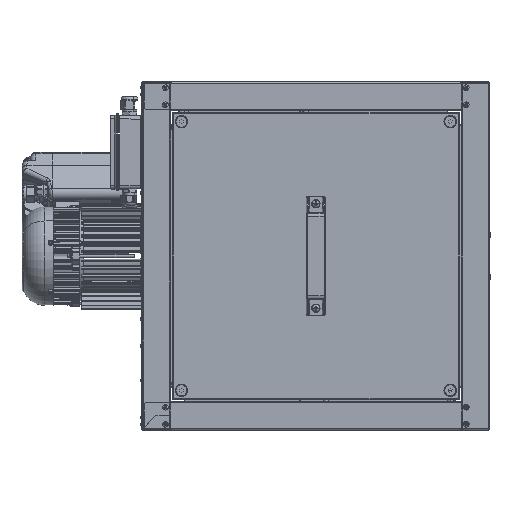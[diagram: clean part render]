
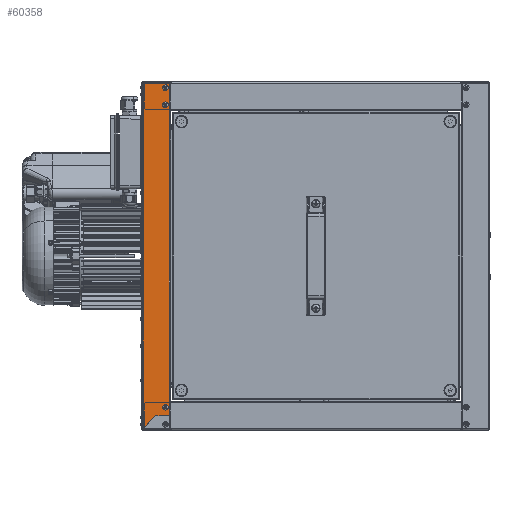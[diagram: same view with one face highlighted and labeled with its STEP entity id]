
A CAD part, left-side view. The second image highlights one B-rep face of the part: STEP entity #60358.
In plain terms, the highlighted planar face has unit normal (-1, 0, 0).
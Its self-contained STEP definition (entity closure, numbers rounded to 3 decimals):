
#4668 = EDGE_CURVE ( 'NONE', #103977, #117901, #60925, .T. ) ;
#4900 = DIRECTION ( 'NONE',  ( -1., 0., 0. ) ) ;
#7245 = AXIS2_PLACEMENT_3D ( 'NONE', #34406, #73550, #111707 ) ;
#7582 = ORIENTED_EDGE ( 'NONE', *, *, #84446, .T. ) ;
#8320 = DIRECTION ( 'NONE',  ( 0., 0., 1. ) ) ;
#8794 = ORIENTED_EDGE ( 'NONE', *, *, #4668, .F. ) ;
#10025 = DIRECTION ( 'NONE',  ( -1., 0., 0. ) ) ;
#10116 = VECTOR ( 'NONE', #39610, 1000. ) ;
#10348 = DIRECTION ( 'NONE',  ( 0., 0., -1. ) ) ;
#10937 = CARTESIAN_POINT ( 'NONE',  ( -250., 210.7, 211.65 ) ) ;
#11079 = CARTESIAN_POINT ( 'NONE',  ( -250., 229.75, -229.1 ) ) ;
#14244 = VECTOR ( 'NONE', #139106, 1000. ) ;
#14521 = DIRECTION ( 'NONE',  ( 0., 1., 0. ) ) ;
#15074 = DIRECTION ( 'NONE',  ( 0., 0.707, -0.707 ) ) ;
#15345 = CARTESIAN_POINT ( 'NONE',  ( -250., 210.2, 211.65 ) ) ;
#16350 = CIRCLE ( 'NONE', #117742, 2.1 ) ;
#17200 = DIRECTION ( 'NONE',  ( -1., 0., 0. ) ) ;
#19855 = CARTESIAN_POINT ( 'NONE',  ( -250., 210.2, 248. ) ) ;
#20153 = DIRECTION ( 'NONE',  ( -1., 0., 0. ) ) ;
#23720 = FACE_BOUND ( 'NONE', #83317, .T. ) ;
#24691 = CARTESIAN_POINT ( 'NONE',  ( -250., 248., 248. ) ) ;
#25277 = ORIENTED_EDGE ( 'NONE', *, *, #100298, .F. ) ;
#26209 = LINE ( 'NONE', #79352, #138069 ) ;
#28511 = ORIENTED_EDGE ( 'NONE', *, *, #84310, .F. ) ;
#28579 = EDGE_CURVE ( 'NONE', #117901, #103977, #138550, .T. ) ;
#29637 = ORIENTED_EDGE ( 'NONE', *, *, #88989, .F. ) ;
#30567 = AXIS2_PLACEMENT_3D ( 'NONE', #74871, #10025, #85760 ) ;
#30735 = DIRECTION ( 'NONE',  ( 0., 1., 0. ) ) ;
#32814 = EDGE_CURVE ( 'NONE', #121186, #89283, #86058, .T. ) ;
#33353 = VECTOR ( 'NONE', #10348, 1000. ) ;
#34406 = CARTESIAN_POINT ( 'NONE',  ( -250., 216., 217.2 ) ) ;
#35390 = CIRCLE ( 'NONE', #30567, 2.1 ) ;
#37517 = CARTESIAN_POINT ( 'NONE',  ( -250., 216., -217.2 ) ) ;
#37685 = PLANE ( 'NONE',  #95455 ) ;
#39305 = ORIENTED_EDGE ( 'NONE', *, *, #130385, .T. ) ;
#39610 = DIRECTION ( 'NONE',  ( 0., 0., -1. ) ) ;
#39657 = LINE ( 'NONE', #74108, #14244 ) ;
#40770 = VERTEX_POINT ( 'NONE', #98285 ) ;
#41201 = EDGE_LOOP ( 'NONE', ( #39305, #87370, #28511, #90743, #49731, #122926, #96779, #77997, #7582 ) ) ;
#45671 = AXIS2_PLACEMENT_3D ( 'NONE', #84938, #20153, #95842 ) ;
#45691 = CIRCLE ( 'NONE', #116737, 2.1 ) ;
#47739 = VERTEX_POINT ( 'NONE', #15345 ) ;
#48418 = DIRECTION ( 'NONE',  ( 0., -1., 0. ) ) ;
#49119 = VERTEX_POINT ( 'NONE', #120862 ) ;
#49731 = ORIENTED_EDGE ( 'NONE', *, *, #32814, .T. ) ;
#52507 = FACE_BOUND ( 'NONE', #101796, .T. ) ;
#55419 = CARTESIAN_POINT ( 'NONE',  ( -250., 218.1, 217.2 ) ) ;
#57771 = VERTEX_POINT ( 'NONE', #66313 ) ;
#59438 = DIRECTION ( 'NONE',  ( 1., 0., 0. ) ) ;
#60358 = ADVANCED_FACE ( 'NONE', ( #23720, #52507, #132148, #103249 ), #37685, .F. ) ;
#60925 = CIRCLE ( 'NONE', #7245, 2.1 ) ;
#60960 = LINE ( 'NONE', #93556, #10116 ) ;
#62167 = LINE ( 'NONE', #118364, #33353 ) ;
#66313 = CARTESIAN_POINT ( 'NONE',  ( -250., 248., -247.35 ) ) ;
#69843 = CARTESIAN_POINT ( 'NONE',  ( -250., 216., -217.2 ) ) ;
#71109 = VERTEX_POINT ( 'NONE', #135627 ) ;
#73359 = EDGE_CURVE ( 'NONE', #103848, #121186, #85011, .T. ) ;
#73550 = DIRECTION ( 'NONE',  ( -1., 0., 0. ) ) ;
#74108 = CARTESIAN_POINT ( 'NONE',  ( -250., 210.2, 211.65 ) ) ;
#74871 = CARTESIAN_POINT ( 'NONE',  ( -250., 216., 241.7 ) ) ;
#74913 = CARTESIAN_POINT ( 'NONE',  ( -250., 210.2, -229.1 ) ) ;
#76570 = CARTESIAN_POINT ( 'NONE',  ( -250., 210.2, -229.1 ) ) ;
#76825 = EDGE_CURVE ( 'NONE', #99926, #40770, #35390, .T. ) ;
#77997 = ORIENTED_EDGE ( 'NONE', *, *, #114031, .T. ) ;
#78204 = VECTOR ( 'NONE', #107586, 1000. ) ;
#78717 = VECTOR ( 'NONE', #30735, 1000. ) ;
#79352 = CARTESIAN_POINT ( 'NONE',  ( -250., 210.7, -210.05 ) ) ;
#79906 = CARTESIAN_POINT ( 'NONE',  ( -250., 249.1, -248.45 ) ) ;
#80726 = DIRECTION ( 'NONE',  ( 0., -1., 0. ) ) ;
#80728 = CARTESIAN_POINT ( 'NONE',  ( -250., 250., 248.95 ) ) ;
#82007 = CARTESIAN_POINT ( 'NONE',  ( -250., 216., 241.7 ) ) ;
#82048 = EDGE_CURVE ( 'NONE', #126816, #57771, #62167, .T. ) ;
#82131 = LINE ( 'NONE', #19855, #78717 ) ;
#83317 = EDGE_LOOP ( 'NONE', ( #29637, #113235 ) ) ;
#83944 = ORIENTED_EDGE ( 'NONE', *, *, #28579, .F. ) ;
#83979 = LINE ( 'NONE', #10937, #138302 ) ;
#84310 = EDGE_CURVE ( 'NONE', #103848, #57771, #110841, .T. ) ;
#84446 = EDGE_CURVE ( 'NONE', #47739, #127481, #39657, .T. ) ;
#84526 = CARTESIAN_POINT ( 'NONE',  ( -250., 218.1, 241.7 ) ) ;
#84938 = CARTESIAN_POINT ( 'NONE',  ( -250., 216., 217.2 ) ) ;
#85011 = LINE ( 'NONE', #74913, #78204 ) ;
#85365 = VECTOR ( 'NONE', #15074, 1000. ) ;
#85760 = DIRECTION ( 'NONE',  ( 0., -1., 0. ) ) ;
#86058 = LINE ( 'NONE', #138157, #111520 ) ;
#87370 = ORIENTED_EDGE ( 'NONE', *, *, #82048, .T. ) ;
#88989 = EDGE_CURVE ( 'NONE', #49119, #71109, #45691, .T. ) ;
#89283 = VERTEX_POINT ( 'NONE', #119845 ) ;
#90065 = CARTESIAN_POINT ( 'NONE',  ( -250., 210.7, 211.65 ) ) ;
#90743 = ORIENTED_EDGE ( 'NONE', *, *, #73359, .T. ) ;
#92934 = DIRECTION ( 'NONE',  ( 0., -1., 0. ) ) ;
#93089 = EDGE_CURVE ( 'NONE', #102572, #119506, #60960, .T. ) ;
#93556 = CARTESIAN_POINT ( 'NONE',  ( -250., 210.7, 248.95 ) ) ;
#95455 = AXIS2_PLACEMENT_3D ( 'NONE', #80728, #59438, #135252 ) ;
#95842 = DIRECTION ( 'NONE',  ( 0., -1., 0. ) ) ;
#96779 = ORIENTED_EDGE ( 'NONE', *, *, #93089, .F. ) ;
#97591 = DIRECTION ( 'NONE',  ( 0., -1., 0. ) ) ;
#98285 = CARTESIAN_POINT ( 'NONE',  ( -250., 213.9, 241.7 ) ) ;
#99926 = VERTEX_POINT ( 'NONE', #84526 ) ;
#100298 = EDGE_CURVE ( 'NONE', #40770, #99926, #121974, .T. ) ;
#101796 = EDGE_LOOP ( 'NONE', ( #8794, #83944 ) ) ;
#102572 = VERTEX_POINT ( 'NONE', #90065 ) ;
#102628 = EDGE_CURVE ( 'NONE', #71109, #49119, #16350, .T. ) ;
#103249 = FACE_OUTER_BOUND ( 'NONE', #41201, .T. ) ;
#103848 = VERTEX_POINT ( 'NONE', #11079 ) ;
#103977 = VERTEX_POINT ( 'NONE', #121471 ) ;
#107515 = AXIS2_PLACEMENT_3D ( 'NONE', #82007, #17200, #92934 ) ;
#107586 = DIRECTION ( 'NONE',  ( 0., -1., 0. ) ) ;
#110841 = LINE ( 'NONE', #79906, #85365 ) ;
#111520 = VECTOR ( 'NONE', #8320, 1000. ) ;
#111707 = DIRECTION ( 'NONE',  ( 0., -1., 0. ) ) ;
#113235 = ORIENTED_EDGE ( 'NONE', *, *, #102628, .F. ) ;
#113265 = DIRECTION ( 'NONE',  ( -1., 0., 0. ) ) ;
#113892 = EDGE_LOOP ( 'NONE', ( #25277, #134004 ) ) ;
#114031 = EDGE_CURVE ( 'NONE', #102572, #47739, #83979, .T. ) ;
#116737 = AXIS2_PLACEMENT_3D ( 'NONE', #69843, #4900, #80726 ) ;
#117742 = AXIS2_PLACEMENT_3D ( 'NONE', #37517, #113265, #48418 ) ;
#117901 = VERTEX_POINT ( 'NONE', #55419 ) ;
#118364 = CARTESIAN_POINT ( 'NONE',  ( -250., 248., 248.95 ) ) ;
#119506 = VERTEX_POINT ( 'NONE', #134112 ) ;
#119845 = CARTESIAN_POINT ( 'NONE',  ( -250., 210.2, -210.05 ) ) ;
#120862 = CARTESIAN_POINT ( 'NONE',  ( -250., 213.9, -217.2 ) ) ;
#121186 = VERTEX_POINT ( 'NONE', #76570 ) ;
#121471 = CARTESIAN_POINT ( 'NONE',  ( -250., 213.9, 217.2 ) ) ;
#121974 = CIRCLE ( 'NONE', #107515, 2.1 ) ;
#122926 = ORIENTED_EDGE ( 'NONE', *, *, #130601, .T. ) ;
#126816 = VERTEX_POINT ( 'NONE', #24691 ) ;
#127481 = VERTEX_POINT ( 'NONE', #137203 ) ;
#130385 = EDGE_CURVE ( 'NONE', #127481, #126816, #82131, .T. ) ;
#130601 = EDGE_CURVE ( 'NONE', #89283, #119506, #26209, .T. ) ;
#132148 = FACE_BOUND ( 'NONE', #113892, .T. ) ;
#134004 = ORIENTED_EDGE ( 'NONE', *, *, #76825, .F. ) ;
#134112 = CARTESIAN_POINT ( 'NONE',  ( -250., 210.7, -210.05 ) ) ;
#135252 = DIRECTION ( 'NONE',  ( 0., 1., 0. ) ) ;
#135627 = CARTESIAN_POINT ( 'NONE',  ( -250., 218.1, -217.2 ) ) ;
#137203 = CARTESIAN_POINT ( 'NONE',  ( -250., 210.2, 248. ) ) ;
#138069 = VECTOR ( 'NONE', #14521, 1000. ) ;
#138157 = CARTESIAN_POINT ( 'NONE',  ( -250., 210.2, -210.05 ) ) ;
#138302 = VECTOR ( 'NONE', #97591, 1000. ) ;
#138550 = CIRCLE ( 'NONE', #45671, 2.1 ) ;
#139106 = DIRECTION ( 'NONE',  ( 0., 0., 1. ) ) ;
